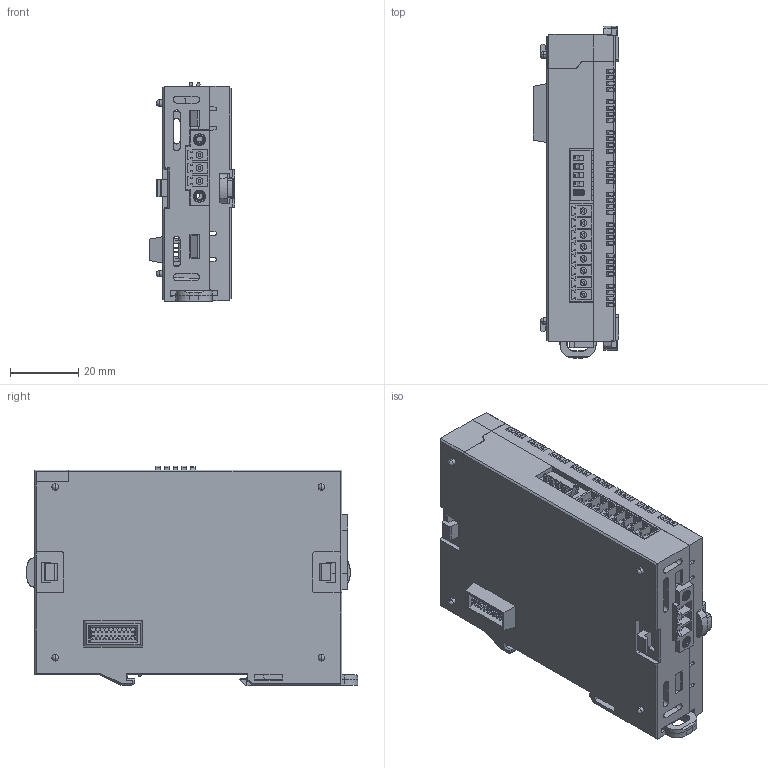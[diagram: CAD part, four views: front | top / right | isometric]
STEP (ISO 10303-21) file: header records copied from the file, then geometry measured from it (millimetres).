
FILE_DESCRIPTION (( 'STEP AP203' ), '1' );
FILE_NAME ('8.STEP', '2017-12-01T10:23:46', ( '' ), ( '' ), 'SwSTEP 2.0', 'SolidWorks 2017', '' );
FILE_SCHEMA (( 'CONFIG_CONTROL_DESIGN' ));
Length unit declared in the file: millimetre
Products named in the file (17): C-4; E; I; C-2; H; 8; D; C-1; B; Insert_M2.5; Connector_15EDGRM_3.81_03P_BCP22124_anytek; C; A; F; Plsc pin 雖雖渠 20_BCP09311_Plcs holder_12.5; C-3; G
Assembly tree (20 placements, depth 4):
  8
    A
    B
    C
      C-1
      C-2
      C-3
        Plsc pin 雖雖渠 20_BCP09311_Plcs holder_12.5  x2
      C-4
        Connector_15EDGRM_3.81_03P_BCP22124_anytek
        Insert_M2.5  x2
    D  x2
    E  x2
    F
    G
    H
    I
Bounding box: 25 x 97.2 x 64.3 mm (x, y, z)
Volume: 33068.9 mm3; surface area: 50467.5 mm2
Topology: 19 solids, 19 shells, 4532 faces, 12464 edges, 8036 vertices
Faces by surface type: plane 3700, cylinder 677, cone 76, bspline 53, torus 14, sphere 12
Entity records: 122750 total; most frequent: CARTESIAN_POINT 25421, ORIENTED_EDGE 20644, DIRECTION 18338, EDGE_CURVE 10322, LINE 9140, VECTOR 9140, VERTEX_POINT 6657, AXIS2_PLACEMENT_3D 4599
